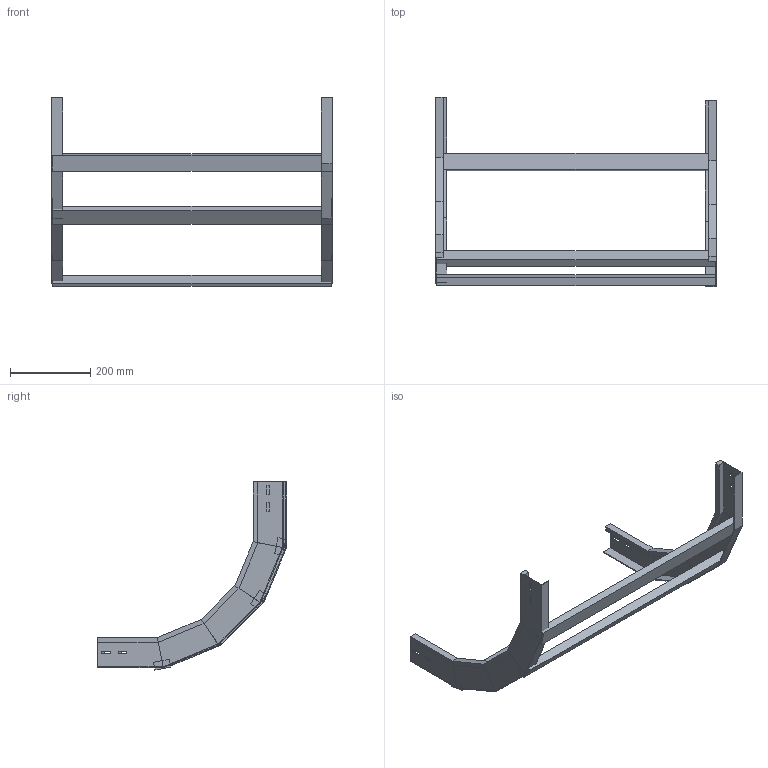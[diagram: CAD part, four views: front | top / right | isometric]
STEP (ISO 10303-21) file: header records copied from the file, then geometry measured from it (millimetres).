
FILE_DESCRIPTION (( 'STEP AP214' ), '1' );
FILE_NAME ('A2X30B3C700XX.step', '2025-04-02T08:47:57', ( '' ), ( '' ), 'SwSTEP 2.0', 'SolidWorks 2023', '' );
FILE_SCHEMA (( 'AUTOMOTIVE_DESIGN' ));
Length unit declared in the file: millimetre
Products named in the file (3): A2X30B3C700XX; LONGH.SALITA_90°_H75_R300; TRAVERSINO_700
Assembly tree (5 placements, depth 2):
  A2X30B3C700XX
    LONGH.SALITA_90°_H75_R300  x2
    TRAVERSINO_700  x3
Bounding box: 700 x 472.38 x 470.38 mm (x, y, z)
Volume: 2236191.7 mm3; surface area: 597774.2 mm2
Topology: 5 solids, 5 shells, 134 faces, 308 edges, 184 vertices
Faces by surface type: plane 134
Entity records: 1864 total; most frequent: CARTESIAN_POINT 308, ORIENTED_EDGE 296, DIRECTION 292, LINE 148, EDGE_CURVE 148, VECTOR 148, VERTEX_POINT 88, EDGE_LOOP 72
